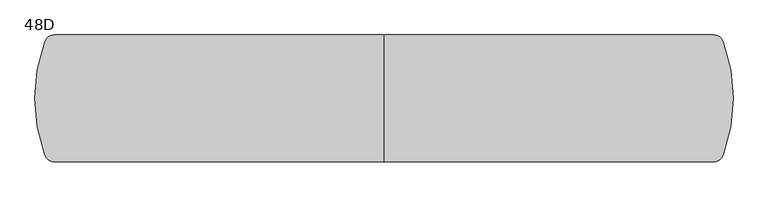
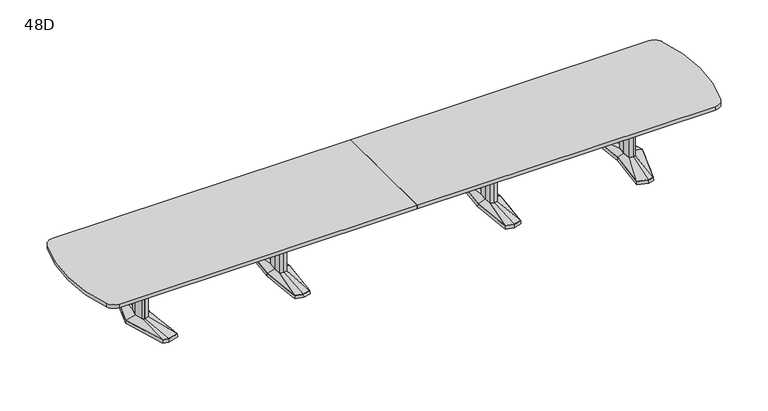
"""IFC4 building model written with IfcOpenShell, lengths in millimetres: furniture geometry, Coalesse_AM_Table_Conference_ETable2_SoftRadiused_22ft_AluminiumBase : 48D."""

from ifc_helpers import new_model, si_unit, point, frame, frame_2d, origin, place, context, project, spatial, polyline, circle_curve, trimmed, segment, composite_curve, outline, extrude, faceted_brep, source, transform, mapped, element, save
from ifc_brep_helpers import plane_surface, spline_surface, advanced_brep


def furniture_48d_76c35294(model_context):
    return source(origin(), model_context, "Body", "SolidModel", [
        faceted_brep([(1036.3666209, -433.8053819, 38.1), (1117.6, -455.556576, 38.1), (1198.8333791, -433.8053819, 38.1), (1236.6564774, 0.0, 38.1), (1198.8333791, 433.8053819, 38.1), (1117.6, 455.556576, 38.1), (1036.3666209, 433.8053819, 38.1), (998.5435226, 0.0, 38.1), (1034.8817205, -435.0512063, 3.175), (996.95, 0.0, 3.175), (1034.8817205, 435.0512063, 3.175), (1117.6, 457.2, 3.175), (1200.3182795, 435.0512063, 3.175), (1238.25, 0.0, 3.175), (1200.3182795, -435.0512063, 3.175), (1117.6, -457.2, 3.175), (1117.6, 429.2617927, 3.175), (1039.6323194, 408.3850278, 3.175), (1042.8980179, 382.9646737, 3.175), (1117.6, 402.9670094, 3.175), (1192.3019821, 382.9646737, 3.175), (1195.5676806, 408.3850278, 3.175), (1117.6, -429.2617927, 3.175), (1195.5676806, -408.3850278, 3.175), (1192.3019821, -382.9646737, 3.175), (1117.6, -402.9670094, 3.175), (1042.8980179, -382.9646737, 3.175), (1039.6323194, -408.3850278, 3.175), (1045.7425738, 114.6326257, 3.175), (1035.0573924, 0.0, 3.175), (1045.7425738, -114.6326257, 3.175), (1117.6, -133.8761372, 3.175), (1189.4574262, -114.6326257, 3.175), (1200.1426076, 0.0, 3.175), (1189.4574262, 114.6326257, 3.175), (1117.6, 133.8761372, 3.175), (1117.6, 429.2617927, 0.0), (1195.5676806, 408.3850278, 0.0), (1192.3019821, 382.9646737, 0.0), (1117.6, 402.9670094, 0.0), (1042.8980179, 382.9646737, 0.0), (1039.6323194, 408.3850278, 0.0), (1117.6, -429.2617927, 0.0), (1039.6323194, -408.3850278, 0.0), (1042.8980179, -382.9646737, 0.0), (1117.6, -402.9670094, 0.0), (1192.3019821, -382.9646737, 0.0), (1195.5676806, -408.3850278, 0.0), (1045.7425738, 114.6326257, 0.0), (1117.6, 133.8761372, 0.0), (1189.4574262, 114.6326257, 0.0), (1200.1426076, 0.0, 0.0), (1189.4574262, -114.6326257, 0.0), (1117.6, -133.8761372, 0.0), (1045.7425738, -114.6326257, 0.0), (1035.0573924, 0.0, 0.0)], [[[0, 1, 2, 3, 4, 5, 6, 7]], [[8, 9, 10, 11, 12, 13, 14, 15], [16, 17, 18, 19, 20, 21], [22, 23, 24, 25, 26, 27], [28, 29, 30, 31, 32, 33, 34, 35]], [[1, 0, 8, 15]], [[2, 1, 15, 14]], [[3, 2, 14, 13]], [[4, 3, 13, 12]], [[5, 4, 12, 11]], [[6, 5, 11, 10]], [[7, 6, 10, 9]], [[0, 7, 9, 8]], [[36, 37, 38, 39, 40, 41]], [[42, 43, 44, 45, 46, 47]], [[48, 49, 50, 51, 52, 53, 54, 55]], [[36, 41, 17, 16]], [[41, 40, 18, 17]], [[40, 39, 19, 18]], [[39, 38, 20, 19]], [[38, 37, 21, 20]], [[37, 36, 16, 21]], [[42, 47, 23, 22]], [[47, 46, 24, 23]], [[46, 45, 25, 24]], [[45, 44, 26, 25]], [[44, 43, 27, 26]], [[43, 42, 22, 27]], [[48, 55, 29, 28]], [[55, 54, 30, 29]], [[54, 53, 31, 30]], [[53, 52, 32, 31]], [[52, 51, 33, 32]], [[51, 50, 34, 33]], [[50, 49, 35, 34]], [[49, 48, 28, 35]]]),
        faceted_brep([(1081.2167166, 84.6900825, 698.5), (1073.3225513, 0.0, 698.5), (1081.2167166, -84.6900825, 698.5), (1117.6, -94.4335728, 698.5), (1153.9832834, -84.6900825, 698.5), (1161.8774487, 0.0, 698.5), (1153.9832834, 84.6900825, 698.5), (1117.6, 94.4335728, 698.5), (1081.2167166, 84.6900825, 63.5), (1117.6, 94.4335728, 63.5), (1153.9832834, 84.6900825, 63.5), (1161.8774487, 0.0, 63.5), (1153.9832834, -84.6900825, 63.5), (1117.6, -94.4335728, 63.5), (1081.2167166, -84.6900825, 63.5), (1073.3225513, 0.0, 63.5)], [[[0, 1, 2, 3, 4, 5, 6, 7]], [[8, 9, 10, 11, 12, 13, 14, 15]], [[1, 0, 8, 15]], [[2, 1, 15, 14]], [[3, 2, 14, 13]], [[4, 3, 13, 12]], [[5, 4, 12, 11]], [[6, 5, 11, 10]], [[7, 6, 10, 9]], [[0, 7, 9, 8]]]),
        advanced_brep(
        [(1081.2167166, 84.6900825, 63.5), (1073.3225513, 0.0, 63.5), (1081.2167166, -84.6900825, 63.5), (1117.6, -94.4335728, 63.5), (1153.9832834, -84.6900825, 63.5), (1161.8774487, 0.0, 63.5), (1153.9832834, 84.6900825, 63.5), (1117.6, 94.4335728, 63.5), (1036.3666209, 433.8053819, 38.1), (1117.6, 455.556576, 38.1), (1198.8333791, 433.8053819, 38.1), (1236.6564774, 0.0, 38.1), (1198.8333791, -433.8053819, 38.1), (1117.6, -455.556576, 38.1), (1036.3666209, -433.8053819, 38.1), (998.5435226, 0.0, 38.1)],
        [
            (0, 1),
            (1, 2),
            (2, 3),
            (3, 4),
            (4, 5),
            (5, 6),
            (6, 7),
            (7, 0),
            (8, 9),
            (9, 10),
            (10, 11),
            (11, 12),
            (12, 13),
            (13, 14),
            (14, 15),
            (15, 8),
            (15, 1),
            (0, 8),
            (14, 2),
            (13, 3),
            (12, 4),
            (11, 5),
            (10, 6),
            (9, 7),
        ],
        [
            plane_surface(frame((1117.6, 0.0, 63.5), z_axis=(0.0, 0.0, 1.0000000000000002), x_axis=(-0.9659615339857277, -0.25868574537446, 0.0))),
            plane_surface(frame((1117.6, 0.0, 38.1), z_axis=(0.0, 0.0, -1.0000000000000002), x_axis=(-0.9659615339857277, -0.25868574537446, 0.0))),
            spline_surface(1, 1, [[(1036.3666209, 433.8053819, 38.1), (1081.2167166, 84.6900825, 63.5)], [(998.5435226, 0.0, 38.1), (1073.3225513, 0.0, 63.5)]], [2, 2], [2, 2], [0.0, 1.0], [0.0, 1.0]),
            spline_surface(1, 1, [[(998.5435226, 0.0, 38.1), (1073.3225513, 0.0, 63.5)], [(1036.3666209, -433.8053819, 38.1), (1081.2167166, -84.6900825, 63.5)]], [2, 2], [2, 2], [0.0, 1.0], [0.0, 1.0]),
            spline_surface(1, 1, [[(1036.3666209, -433.8053819, 38.1), (1081.2167166, -84.6900825, 63.5)], [(1117.6, -455.556576, 38.1), (1117.6, -94.4335728, 63.5)]], [2, 2], [2, 2], [0.0, 1.0], [0.0, 1.0]),
            spline_surface(1, 1, [[(1117.6, -455.556576, 38.1), (1117.6, -94.4335728, 63.5)], [(1198.8333791, -433.8053819, 38.1), (1153.9832834, -84.6900825, 63.5)]], [2, 2], [2, 2], [0.0, 1.0], [0.0, 1.0]),
            spline_surface(1, 1, [[(1198.8333791, -433.8053819, 38.1), (1153.9832834, -84.6900825, 63.5)], [(1236.6564774, 0.0, 38.1), (1161.8774487, 0.0, 63.5)]], [2, 2], [2, 2], [0.0, 1.0], [0.0, 1.0]),
            spline_surface(1, 1, [[(1236.6564774, 0.0, 38.1), (1161.8774487, 0.0, 63.5)], [(1198.8333791, 433.8053819, 38.1), (1153.9832834, 84.6900825, 63.5)]], [2, 2], [2, 2], [0.0, 1.0], [0.0, 1.0]),
            spline_surface(1, 1, [[(1198.8333791, 433.8053819, 38.1), (1153.9832834, 84.6900825, 63.5)], [(1117.6, 455.556576, 38.1), (1117.6, 94.4335728, 63.5)]], [2, 2], [2, 2], [0.0, 1.0], [0.0, 1.0]),
            spline_surface(1, 1, [[(1117.6, 455.556576, 38.1), (1117.6, 94.4335728, 63.5)], [(1036.3666209, 433.8053819, 38.1), (1081.2167166, 84.6900825, 63.5)]], [2, 2], [2, 2], [0.0, 1.0], [0.0, 1.0]),
        ],
        [
            (0, [[1, 2, 3, 4, 5, 6, 7, 8]]),
            (1, [[9, 10, 11, 12, 13, 14, 15, 16]]),
            (2, [[-16, 17, -1, 18]]),
            (3, [[-15, 19, -2, -17]]),
            (4, [[-14, 20, -3, -19]]),
            (5, [[-13, 21, -4, -20]]),
            (6, [[-12, 22, -5, -21]]),
            (7, [[-11, 23, -6, -22]]),
            (8, [[-10, 24, -7, -23]]),
            (9, [[-9, -18, -8, -24]]),
        ],
    ),
        faceted_brep([(-1198.8333791, -433.8053819, 38.1), (-1117.6, -455.556576, 38.1), (-1036.3666209, -433.8053819, 38.1), (-998.5435226, 0.0, 38.1), (-1036.3666209, 433.8053819, 38.1), (-1117.6, 455.556576, 38.1), (-1198.8333791, 433.8053819, 38.1), (-1236.6564774, 0.0, 38.1), (-1200.3182795, -435.0512063, 3.175), (-1238.25, 0.0, 3.175), (-1200.3182795, 435.0512063, 3.175), (-1117.6, 457.2, 3.175), (-1034.8817205, 435.0512063, 3.175), (-996.95, 0.0, 3.175), (-1034.8817205, -435.0512063, 3.175), (-1117.6, -457.2, 3.175), (-1117.6, 429.2617927, 3.175), (-1195.5676806, 408.3850278, 3.175), (-1192.3019821, 382.9646737, 3.175), (-1117.6, 402.9670094, 3.175), (-1042.8980179, 382.9646737, 3.175), (-1039.6323194, 408.3850278, 3.175), (-1117.6, -429.2617927, 3.175), (-1039.6323194, -408.3850278, 3.175), (-1042.8980179, -382.9646737, 3.175), (-1117.6, -402.9670094, 3.175), (-1192.3019821, -382.9646737, 3.175), (-1195.5676806, -408.3850278, 3.175), (-1189.4574262, 114.6326257, 3.175), (-1200.1426076, 0.0, 3.175), (-1189.4574262, -114.6326257, 3.175), (-1117.6, -133.8761372, 3.175), (-1045.7425738, -114.6326257, 3.175), (-1035.0573924, 0.0, 3.175), (-1045.7425738, 114.6326257, 3.175), (-1117.6, 133.8761372, 3.175), (-1117.6, 429.2617927, 0.0), (-1039.6323194, 408.3850278, 0.0), (-1042.8980179, 382.9646737, 0.0), (-1117.6, 402.9670094, 0.0), (-1192.3019821, 382.9646737, 0.0), (-1195.5676806, 408.3850278, 0.0), (-1117.6, -429.2617927, 0.0), (-1195.5676806, -408.3850278, 0.0), (-1192.3019821, -382.9646737, 0.0), (-1117.6, -402.9670094, 0.0), (-1042.8980179, -382.9646737, 0.0), (-1039.6323194, -408.3850278, 0.0), (-1189.4574262, 114.6326257, 0.0), (-1117.6, 133.8761372, 0.0), (-1045.7425738, 114.6326257, 0.0), (-1035.0573924, 0.0, 0.0), (-1045.7425738, -114.6326257, 0.0), (-1117.6, -133.8761372, 0.0), (-1189.4574262, -114.6326257, 0.0), (-1200.1426076, 0.0, 0.0)], [[[0, 1, 2, 3, 4, 5, 6, 7]], [[8, 9, 10, 11, 12, 13, 14, 15], [16, 17, 18, 19, 20, 21], [22, 23, 24, 25, 26, 27], [28, 29, 30, 31, 32, 33, 34, 35]], [[1, 0, 8, 15]], [[2, 1, 15, 14]], [[3, 2, 14, 13]], [[4, 3, 13, 12]], [[5, 4, 12, 11]], [[6, 5, 11, 10]], [[7, 6, 10, 9]], [[0, 7, 9, 8]], [[36, 37, 38, 39, 40, 41]], [[42, 43, 44, 45, 46, 47]], [[48, 49, 50, 51, 52, 53, 54, 55]], [[36, 41, 17, 16]], [[41, 40, 18, 17]], [[40, 39, 19, 18]], [[39, 38, 20, 19]], [[38, 37, 21, 20]], [[37, 36, 16, 21]], [[42, 47, 23, 22]], [[47, 46, 24, 23]], [[46, 45, 25, 24]], [[45, 44, 26, 25]], [[44, 43, 27, 26]], [[43, 42, 22, 27]], [[48, 55, 29, 28]], [[55, 54, 30, 29]], [[54, 53, 31, 30]], [[53, 52, 32, 31]], [[52, 51, 33, 32]], [[51, 50, 34, 33]], [[50, 49, 35, 34]], [[49, 48, 28, 35]]]),
        faceted_brep([(-1153.9832834, 84.6900825, 698.5), (-1161.8774487, 0.0, 698.5), (-1153.9832834, -84.6900825, 698.5), (-1117.6, -94.4335728, 698.5), (-1081.2167166, -84.6900825, 698.5), (-1073.3225513, 0.0, 698.5), (-1081.2167166, 84.6900825, 698.5), (-1117.6, 94.4335728, 698.5), (-1153.9832834, 84.6900825, 63.5), (-1117.6, 94.4335728, 63.5), (-1081.2167166, 84.6900825, 63.5), (-1073.3225513, 0.0, 63.5), (-1081.2167166, -84.6900825, 63.5), (-1117.6, -94.4335728, 63.5), (-1153.9832834, -84.6900825, 63.5), (-1161.8774487, 0.0, 63.5)], [[[0, 1, 2, 3, 4, 5, 6, 7]], [[8, 9, 10, 11, 12, 13, 14, 15]], [[1, 0, 8, 15]], [[2, 1, 15, 14]], [[3, 2, 14, 13]], [[4, 3, 13, 12]], [[5, 4, 12, 11]], [[6, 5, 11, 10]], [[7, 6, 10, 9]], [[0, 7, 9, 8]]]),
        advanced_brep(
        [(-1153.9832834, 84.6900825, 63.5), (-1161.8774487, 0.0, 63.5), (-1153.9832834, -84.6900825, 63.5), (-1117.6, -94.4335728, 63.5), (-1081.2167166, -84.6900825, 63.5), (-1073.3225513, 0.0, 63.5), (-1081.2167166, 84.6900825, 63.5), (-1117.6, 94.4335728, 63.5), (-1198.8333791, 433.8053819, 38.1), (-1117.6, 455.556576, 38.1), (-1036.3666209, 433.8053819, 38.1), (-998.5435226, 0.0, 38.1), (-1036.3666209, -433.8053819, 38.1), (-1117.6, -455.556576, 38.1), (-1198.8333791, -433.8053819, 38.1), (-1236.6564774, 0.0, 38.1)],
        [
            (0, 1),
            (1, 2),
            (2, 3),
            (3, 4),
            (4, 5),
            (5, 6),
            (6, 7),
            (7, 0),
            (8, 9),
            (9, 10),
            (10, 11),
            (11, 12),
            (12, 13),
            (13, 14),
            (14, 15),
            (15, 8),
            (15, 1),
            (0, 8),
            (14, 2),
            (13, 3),
            (12, 4),
            (11, 5),
            (10, 6),
            (9, 7),
        ],
        [
            plane_surface(frame((-1117.6, 0.0, 63.5), z_axis=(0.0, 0.0, 1.0000000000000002), x_axis=(-0.9659615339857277, -0.25868574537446, 0.0))),
            plane_surface(frame((-1117.6, 0.0, 38.1), z_axis=(0.0, 0.0, -1.0000000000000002), x_axis=(-0.9659615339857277, -0.25868574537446, 0.0))),
            spline_surface(1, 1, [[(-1198.8333791, 433.8053819, 38.1), (-1153.9832834, 84.6900825, 63.5)], [(-1236.6564774, 0.0, 38.1), (-1161.8774487, 0.0, 63.5)]], [2, 2], [2, 2], [0.0, 1.0], [0.0, 1.0]),
            spline_surface(1, 1, [[(-1236.6564774, 0.0, 38.1), (-1161.8774487, 0.0, 63.5)], [(-1198.8333791, -433.8053819, 38.1), (-1153.9832834, -84.6900825, 63.5)]], [2, 2], [2, 2], [0.0, 1.0], [0.0, 1.0]),
            spline_surface(1, 1, [[(-1198.8333791, -433.8053819, 38.1), (-1153.9832834, -84.6900825, 63.5)], [(-1117.6, -455.556576, 38.1), (-1117.6, -94.4335728, 63.5)]], [2, 2], [2, 2], [0.0, 1.0], [0.0, 1.0]),
            spline_surface(1, 1, [[(-1117.6, -455.556576, 38.1), (-1117.6, -94.4335728, 63.5)], [(-1036.3666209, -433.8053819, 38.1), (-1081.2167166, -84.6900825, 63.5)]], [2, 2], [2, 2], [0.0, 1.0], [0.0, 1.0]),
            spline_surface(1, 1, [[(-1036.3666209, -433.8053819, 38.1), (-1081.2167166, -84.6900825, 63.5)], [(-998.5435226, 0.0, 38.1), (-1073.3225513, 0.0, 63.5)]], [2, 2], [2, 2], [0.0, 1.0], [0.0, 1.0]),
            spline_surface(1, 1, [[(-998.5435226, 0.0, 38.1), (-1073.3225513, 0.0, 63.5)], [(-1036.3666209, 433.8053819, 38.1), (-1081.2167166, 84.6900825, 63.5)]], [2, 2], [2, 2], [0.0, 1.0], [0.0, 1.0]),
            spline_surface(1, 1, [[(-1036.3666209, 433.8053819, 38.1), (-1081.2167166, 84.6900825, 63.5)], [(-1117.6, 455.556576, 38.1), (-1117.6, 94.4335728, 63.5)]], [2, 2], [2, 2], [0.0, 1.0], [0.0, 1.0]),
            spline_surface(1, 1, [[(-1117.6, 455.556576, 38.1), (-1117.6, 94.4335728, 63.5)], [(-1198.8333791, 433.8053819, 38.1), (-1153.9832834, 84.6900825, 63.5)]], [2, 2], [2, 2], [0.0, 1.0], [0.0, 1.0]),
        ],
        [
            (0, [[1, 2, 3, 4, 5, 6, 7, 8]]),
            (1, [[9, 10, 11, 12, 13, 14, 15, 16]]),
            (2, [[-16, 17, -1, 18]]),
            (3, [[-15, 19, -2, -17]]),
            (4, [[-14, 20, -3, -19]]),
            (5, [[-13, 21, -4, -20]]),
            (6, [[-12, 22, -5, -21]]),
            (7, [[-11, 23, -6, -22]]),
            (8, [[-10, 24, -7, -23]]),
            (9, [[-9, -18, -8, -24]]),
        ],
    ),
        faceted_brep([(2548.0994335, 455.5848221, 38.1), (2438.5218777, 426.2263816, 38.1), (2479.6851217, 0.0, 38.1), (2438.5218777, -426.2263816, 38.1), (2548.0994335, -455.5848221, 38.1), (2604.2257896, -440.5478297, 38.1), (2741.5371769, 0.0, 38.1), (2604.2257896, 440.5478297, 38.1), (2548.0994254, 457.2283104, 3.175), (2605.4811972, 441.8549756, 3.175), (2743.2, 0.0, 3.175), (2605.4811972, -441.8549756, 3.175), (2548.0994254, -457.2283104, 3.175), (2436.8125, -427.4118891, 3.175), (2478.0902356, 0.0, 3.175), (2436.8125, 427.4118891, 3.175), (2551.688865, 428.3273875, 3.175), (2446.6405728, 402.1057253, 3.175), (2454.759268, 377.985069, 3.175), (2555.2782966, 401.0699529, 3.175), (2605.8379225, 387.524361, 3.175), (2605.0318561, 414.0360954, 3.175), (2551.688865, -428.3273875, 3.175), (2605.0318561, -414.0360954, 3.175), (2605.8379225, -387.524361, 3.175), (2555.2782966, -401.0699529, 3.175), (2454.759268, -377.985069, 3.175), (2446.6405728, -402.1057253, 3.175), (2678.2841121, 0.0, 3.175), (2646.0147111, 120.4193755, 3.175), (2597.3674722, 133.471665, 3.175), (2517.4868026, 119.4176561, 3.175), (2506.3555966, 0.0, 3.175), (2517.4868026, -119.4176561, 3.175), (2597.3674722, -133.471665, 3.175), (2646.0147111, -120.4193755, 3.175), (2551.688865, 428.3273875, 0.0), (2605.0318561, 414.0360954, 0.0), (2605.8379225, 387.524361, 0.0), (2555.2782966, 401.0699529, 0.0), (2454.759268, 377.985069, 0.0), (2446.6405728, 402.1057253, 0.0), (2551.688865, -428.3273875, 0.0), (2446.6405728, -402.1057253, 0.0), (2454.759268, -377.985069, 0.0), (2555.2782966, -401.0699529, 0.0), (2605.8379225, -387.524361, 0.0), (2605.0318561, -414.0360954, 0.0), (2678.2841121, 0.0, 0.0), (2646.0147111, -120.4193755, 0.0), (2597.3674722, -133.471665, 0.0), (2517.4868026, -119.4176561, 0.0), (2506.3555966, 0.0, 0.0), (2517.4868026, 119.4176561, 0.0), (2597.3674722, 133.471665, 0.0), (2646.0147111, 120.4193755, 0.0)], [[[0, 1, 2, 3, 4, 5, 6, 7]], [[8, 9, 10, 11, 12, 13, 14, 15], [16, 17, 18, 19, 20, 21], [22, 23, 24, 25, 26, 27], [28, 29, 30, 31, 32, 33, 34, 35]], [[7, 9, 8, 0]], [[6, 10, 9, 7]], [[5, 11, 10, 6]], [[4, 12, 11, 5]], [[3, 13, 12, 4]], [[2, 14, 13, 3]], [[1, 15, 14, 2]], [[0, 8, 15, 1]], [[36, 37, 38, 39, 40, 41]], [[42, 43, 44, 45, 46, 47]], [[48, 49, 50, 51, 52, 53, 54, 55]], [[36, 16, 21, 37]], [[37, 21, 20, 38]], [[38, 20, 19, 39]], [[39, 19, 18, 40]], [[40, 18, 17, 41]], [[41, 17, 16, 36]], [[42, 22, 27, 43]], [[43, 27, 26, 44]], [[44, 26, 25, 45]], [[45, 25, 24, 46]], [[46, 24, 23, 47]], [[47, 23, 22, 42]], [[48, 28, 35, 49]], [[49, 35, 34, 50]], [[50, 34, 33, 51]], [[51, 33, 32, 52]], [[52, 32, 31, 53]], [[53, 31, 30, 54]], [[54, 30, 29, 55]], [[55, 29, 28, 48]]]),
        faceted_brep([(2638.8398336, 0.0, 698.5), (2614.9046046, 89.3188359, 698.5), (2598.0512484, 93.8406728, 698.5), (2595.6514011, 94.4845635, 698.5), (2552.723896, 86.9320037, 698.5), (2544.6207556, 0.0, 698.5), (2552.723896, -86.9320037, 698.5), (2595.6514011, -94.4845635, 698.5), (2598.0512484, -93.8406728, 698.5), (2614.9046046, -89.3188359, 698.5), (2638.8398336, 0.0, 63.5), (2614.9046046, -89.3188359, 63.5), (2598.0512484, -93.8406728, 63.5), (2595.6514011, -94.4845635, 63.5), (2552.723896, -86.9320037, 63.5), (2544.6207556, 0.0, 63.5), (2552.723896, 86.9320037, 63.5), (2595.6514011, 94.4845635, 63.5), (2598.0512484, 93.8406728, 63.5), (2614.9046046, 89.3188359, 63.5)], [[[0, 1, 2, 3, 4, 5, 6, 7, 8, 9]], [[10, 11, 12, 13, 14, 15, 16, 17, 18, 19]], [[9, 11, 10, 0]], [[8, 12, 11, 9]], [[7, 13, 12, 8]], [[6, 14, 13, 7]], [[5, 15, 14, 6]], [[4, 16, 15, 5]], [[3, 17, 16, 4]], [[2, 18, 17, 3]], [[1, 19, 18, 2]], [[0, 10, 19, 1]]]),
        advanced_brep(
        [(2595.6514011, 94.4845635, 63.5), (2552.723896, 86.9320037, 63.5), (2544.6207556, 0.0, 63.5), (2552.723896, -86.9320037, 63.5), (2595.6514011, -94.4845635, 63.5), (2614.9046046, -89.3188359, 63.5), (2638.8398336, 0.0, 63.5), (2614.9046046, 89.3188359, 63.5), (2548.0994335, 455.5848221, 38.1), (2604.2257896, 440.5478297, 38.1), (2741.5371769, 0.0, 38.1), (2604.2257896, -440.5478297, 38.1), (2548.0994335, -455.5848221, 38.1), (2438.5218777, -426.2263816, 38.1), (2479.6851217, 0.0, 38.1), (2438.5218777, 426.2263816, 38.1)],
        [
            (0, 1),
            (1, 2),
            (2, 3),
            (3, 4),
            (4, 5),
            (5, 6),
            (6, 7),
            (7, 0),
            (8, 9),
            (9, 10),
            (10, 11),
            (11, 12),
            (12, 13),
            (13, 14),
            (14, 15),
            (15, 8),
            (8, 0),
            (7, 9),
            (6, 10),
            (5, 11),
            (4, 12),
            (3, 13),
            (2, 14),
            (1, 15),
        ],
        [
            plane_surface(frame((2588.7525491, 0.0, 63.5), z_axis=(0.0, 0.0, 1.0), x_axis=(-0.25884244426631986, -0.9659195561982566, 0.0))),
            plane_surface(frame((2550.3645625, 0.0, 38.1), z_axis=(0.0, 0.0, -1.0), x_axis=(-0.25884244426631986, -0.9659195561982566, 0.0))),
            spline_surface(1, 1, [[(2548.0994335, 455.5848221, 38.1), (2604.2257896, 440.5478297, 38.1)], [(2595.6514011, 94.4845635, 63.5), (2614.9046046, 89.3188359, 63.5)]], [2, 2], [2, 2], [0.0, 1.0], [0.0, 1.0]),
            spline_surface(1, 1, [[(2604.2257896, 440.5478297, 38.1), (2741.5371769, 0.0, 38.1)], [(2614.9046046, 89.3188359, 63.5), (2638.8398336, 0.0, 63.5)]], [2, 2], [2, 2], [0.0, 1.0], [0.0, 1.0]),
            spline_surface(1, 1, [[(2741.5371769, 0.0, 38.1), (2604.2257896, -440.5478297, 38.1)], [(2638.8398336, 0.0, 63.5), (2614.9046046, -89.3188359, 63.5)]], [2, 2], [2, 2], [0.0, 1.0], [0.0, 1.0]),
            spline_surface(1, 1, [[(2604.2257896, -440.5478297, 38.1), (2548.0994335, -455.5848221, 38.1)], [(2614.9046046, -89.3188359, 63.5), (2595.6514011, -94.4845635, 63.5)]], [2, 2], [2, 2], [0.0, 1.0], [0.0, 1.0]),
            spline_surface(1, 1, [[(2548.0994335, -455.5848221, 38.1), (2438.5218777, -426.2263816, 38.1)], [(2595.6514011, -94.4845635, 63.5), (2552.723896, -86.9320037, 63.5)]], [2, 2], [2, 2], [0.0, 1.0], [0.0, 1.0]),
            spline_surface(1, 1, [[(2438.5218777, -426.2263816, 38.1), (2479.6851217, 0.0, 38.1)], [(2552.723896, -86.9320037, 63.5), (2544.6207556, 0.0, 63.5)]], [2, 2], [2, 2], [0.0, 1.0], [0.0, 1.0]),
            spline_surface(1, 1, [[(2479.6851217, 0.0, 38.1), (2438.5218777, 426.2263816, 38.1)], [(2544.6207556, 0.0, 63.5), (2552.723896, 86.9320037, 63.5)]], [2, 2], [2, 2], [0.0, 1.0], [0.0, 1.0]),
            spline_surface(1, 1, [[(2438.5218777, 426.2263816, 38.1), (2548.0994335, 455.5848221, 38.1)], [(2552.723896, 86.9320037, 63.5), (2595.6514011, 94.4845635, 63.5)]], [2, 2], [2, 2], [0.0, 1.0], [0.0, 1.0]),
        ],
        [
            (0, [[1, 2, 3, 4, 5, 6, 7, 8]]),
            (1, [[9, 10, 11, 12, 13, 14, 15, 16]]),
            (2, [[17, -8, 18, -9]]),
            (3, [[-18, -7, 19, -10]]),
            (4, [[-19, -6, 20, -11]]),
            (5, [[-20, -5, 21, -12]]),
            (6, [[-21, -4, 22, -13]]),
            (7, [[-22, -3, 23, -14]]),
            (8, [[-23, -2, 24, -15]]),
            (9, [[-24, -1, -17, -16]]),
        ],
    ),
        faceted_brep([(-2548.0994335, 455.5848221, 38.1), (-2604.2257896, 440.5478297, 38.1), (-2741.5371769, 0.0, 38.1), (-2604.2257896, -440.5478297, 38.1), (-2548.0994335, -455.5848221, 38.1), (-2438.5218777, -426.2263816, 38.1), (-2479.6851217, 0.0, 38.1), (-2438.5218777, 426.2263816, 38.1), (-2548.0994254, 457.2283104, 3.175), (-2436.8125, 427.4118891, 3.175), (-2478.0902356, 0.0, 3.175), (-2436.8125, -427.4118891, 3.175), (-2548.0994254, -457.2283104, 3.175), (-2605.4811972, -441.8549756, 3.175), (-2743.2, 0.0, 3.175), (-2605.4811972, 441.8549756, 3.175), (-2551.688865, 428.3273875, 3.175), (-2605.0318561, 414.0360954, 3.175), (-2605.8379225, 387.524361, 3.175), (-2555.2782966, 401.0699529, 3.175), (-2454.759268, 377.985069, 3.175), (-2446.6405728, 402.1057253, 3.175), (-2551.688865, -428.3273875, 3.175), (-2446.6405728, -402.1057253, 3.175), (-2454.759268, -377.985069, 3.175), (-2555.2782966, -401.0699529, 3.175), (-2605.8379225, -387.524361, 3.175), (-2605.0318561, -414.0360954, 3.175), (-2678.2841121, 0.0, 3.175), (-2646.0147111, -120.4193755, 3.175), (-2597.3674722, -133.471665, 3.175), (-2517.4868026, -119.4176561, 3.175), (-2506.3555966, 0.0, 3.175), (-2517.4868026, 119.4176561, 3.175), (-2597.3674722, 133.471665, 3.175), (-2646.0147111, 120.4193755, 3.175), (-2551.688865, 428.3273875, 0.0), (-2446.6405728, 402.1057253, 0.0), (-2454.759268, 377.985069, 0.0), (-2555.2782966, 401.0699529, 0.0), (-2605.8379225, 387.524361, 0.0), (-2605.0318561, 414.0360954, 0.0), (-2551.688865, -428.3273875, 0.0), (-2605.0318561, -414.0360954, 0.0), (-2605.8379225, -387.524361, 0.0), (-2555.2782966, -401.0699529, 0.0), (-2454.759268, -377.985069, 0.0), (-2446.6405728, -402.1057253, 0.0), (-2678.2841121, 0.0, 0.0), (-2646.0147111, 120.4193755, 0.0), (-2597.3674722, 133.471665, 0.0), (-2517.4868026, 119.4176561, 0.0), (-2506.3555966, 0.0, 0.0), (-2517.4868026, -119.4176561, 0.0), (-2597.3674722, -133.471665, 0.0), (-2646.0147111, -120.4193755, 0.0)], [[[0, 1, 2, 3, 4, 5, 6, 7]], [[8, 9, 10, 11, 12, 13, 14, 15], [16, 17, 18, 19, 20, 21], [22, 23, 24, 25, 26, 27], [28, 29, 30, 31, 32, 33, 34, 35]], [[1, 0, 8, 15]], [[2, 1, 15, 14]], [[3, 2, 14, 13]], [[4, 3, 13, 12]], [[5, 4, 12, 11]], [[6, 5, 11, 10]], [[7, 6, 10, 9]], [[0, 7, 9, 8]], [[36, 37, 38, 39, 40, 41]], [[42, 43, 44, 45, 46, 47]], [[48, 49, 50, 51, 52, 53, 54, 55]], [[36, 41, 17, 16]], [[41, 40, 18, 17]], [[40, 39, 19, 18]], [[39, 38, 20, 19]], [[38, 37, 21, 20]], [[37, 36, 16, 21]], [[42, 47, 23, 22]], [[47, 46, 24, 23]], [[46, 45, 25, 24]], [[45, 44, 26, 25]], [[44, 43, 27, 26]], [[43, 42, 22, 27]], [[48, 55, 29, 28]], [[55, 54, 30, 29]], [[54, 53, 31, 30]], [[53, 52, 32, 31]], [[52, 51, 33, 32]], [[51, 50, 34, 33]], [[50, 49, 35, 34]], [[49, 48, 28, 35]]]),
        faceted_brep([(-2638.8398336, 0.0, 698.5), (-2614.9046046, -89.3188359, 698.5), (-2598.0512484, -93.8406728, 698.5), (-2595.6514011, -94.4845635, 698.5), (-2552.723896, -86.9320037, 698.5), (-2544.6207556, 0.0, 698.5), (-2552.723896, 86.9320037, 698.5), (-2595.6514011, 94.4845635, 698.5), (-2598.0512484, 93.8406728, 698.5), (-2614.9046046, 89.3188359, 698.5), (-2638.8398336, 0.0, 63.5), (-2614.9046046, 89.3188359, 63.5), (-2598.0512484, 93.8406728, 63.5), (-2595.6514011, 94.4845635, 63.5), (-2552.723896, 86.9320037, 63.5), (-2544.6207556, 0.0, 63.5), (-2552.723896, -86.9320037, 63.5), (-2595.6514011, -94.4845635, 63.5), (-2598.0512484, -93.8406728, 63.5), (-2614.9046046, -89.3188359, 63.5)], [[[0, 1, 2, 3, 4, 5, 6, 7, 8, 9]], [[10, 11, 12, 13, 14, 15, 16, 17, 18, 19]], [[1, 0, 10, 19]], [[2, 1, 19, 18]], [[3, 2, 18, 17]], [[4, 3, 17, 16]], [[5, 4, 16, 15]], [[6, 5, 15, 14]], [[7, 6, 14, 13]], [[8, 7, 13, 12]], [[9, 8, 12, 11]], [[0, 9, 11, 10]]]),
        advanced_brep(
        [(-2595.6514011, 94.4845635, 63.5), (-2614.9046046, 89.3188359, 63.5), (-2638.8398336, 0.0, 63.5), (-2614.9046046, -89.3188359, 63.5), (-2595.6514011, -94.4845635, 63.5), (-2552.723896, -86.9320037, 63.5), (-2544.6207556, 0.0, 63.5), (-2552.723896, 86.9320037, 63.5), (-2548.0994335, 455.5848221, 38.1), (-2438.5218777, 426.2263816, 38.1), (-2479.6851217, 0.0, 38.1), (-2438.5218777, -426.2263816, 38.1), (-2548.0994335, -455.5848221, 38.1), (-2604.2257896, -440.5478297, 38.1), (-2741.5371769, 0.0, 38.1), (-2604.2257896, 440.5478297, 38.1)],
        [
            (0, 1),
            (1, 2),
            (2, 3),
            (3, 4),
            (4, 5),
            (5, 6),
            (6, 7),
            (7, 0),
            (8, 9),
            (9, 10),
            (10, 11),
            (11, 12),
            (12, 13),
            (13, 14),
            (14, 15),
            (15, 8),
            (15, 1),
            (0, 8),
            (14, 2),
            (13, 3),
            (12, 4),
            (11, 5),
            (10, 6),
            (9, 7),
        ],
        [
            plane_surface(frame((-2588.7525491, 0.0, 63.5), z_axis=(0.0, 0.0, 1.0), x_axis=(0.25884244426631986, -0.9659195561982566, 0.0))),
            plane_surface(frame((-2550.3645625, 0.0, 38.1), z_axis=(0.0, 0.0, -1.0), x_axis=(0.25884244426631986, -0.9659195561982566, 0.0))),
            spline_surface(1, 1, [[(-2548.0994335, 455.5848221, 38.1), (-2595.6514011, 94.4845635, 63.5)], [(-2604.2257896, 440.5478297, 38.1), (-2614.9046046, 89.3188359, 63.5)]], [2, 2], [2, 2], [0.0, 1.0], [0.0, 1.0]),
            spline_surface(1, 1, [[(-2604.2257896, 440.5478297, 38.1), (-2614.9046046, 89.3188359, 63.5)], [(-2741.5371769, 0.0, 38.1), (-2638.8398336, 0.0, 63.5)]], [2, 2], [2, 2], [0.0, 1.0], [0.0, 1.0]),
            spline_surface(1, 1, [[(-2741.5371769, 0.0, 38.1), (-2638.8398336, 0.0, 63.5)], [(-2604.2257896, -440.5478297, 38.1), (-2614.9046046, -89.3188359, 63.5)]], [2, 2], [2, 2], [0.0, 1.0], [0.0, 1.0]),
            spline_surface(1, 1, [[(-2604.2257896, -440.5478297, 38.1), (-2614.9046046, -89.3188359, 63.5)], [(-2548.0994335, -455.5848221, 38.1), (-2595.6514011, -94.4845635, 63.5)]], [2, 2], [2, 2], [0.0, 1.0], [0.0, 1.0]),
            spline_surface(1, 1, [[(-2548.0994335, -455.5848221, 38.1), (-2595.6514011, -94.4845635, 63.5)], [(-2438.5218777, -426.2263816, 38.1), (-2552.723896, -86.9320037, 63.5)]], [2, 2], [2, 2], [0.0, 1.0], [0.0, 1.0]),
            spline_surface(1, 1, [[(-2438.5218777, -426.2263816, 38.1), (-2552.723896, -86.9320037, 63.5)], [(-2479.6851217, 0.0, 38.1), (-2544.6207556, 0.0, 63.5)]], [2, 2], [2, 2], [0.0, 1.0], [0.0, 1.0]),
            spline_surface(1, 1, [[(-2479.6851217, 0.0, 38.1), (-2544.6207556, 0.0, 63.5)], [(-2438.5218777, 426.2263816, 38.1), (-2552.723896, 86.9320037, 63.5)]], [2, 2], [2, 2], [0.0, 1.0], [0.0, 1.0]),
            spline_surface(1, 1, [[(-2438.5218777, 426.2263816, 38.1), (-2552.723896, 86.9320037, 63.5)], [(-2548.0994335, 455.5848221, 38.1), (-2595.6514011, 94.4845635, 63.5)]], [2, 2], [2, 2], [0.0, 1.0], [0.0, 1.0]),
        ],
        [
            (0, [[1, 2, 3, 4, 5, 6, 7, 8]]),
            (1, [[9, 10, 11, 12, 13, 14, 15, 16]]),
            (2, [[-16, 17, -1, 18]]),
            (3, [[-15, 19, -2, -17]]),
            (4, [[-14, 20, -3, -19]]),
            (5, [[-13, 21, -4, -20]]),
            (6, [[-12, 22, -5, -21]]),
            (7, [[-11, 23, -6, -22]]),
            (8, [[-10, 24, -7, -23]]),
            (9, [[-9, -18, -8, -24]]),
        ],
    ),
        extrude(outline(polyline([(96.8375, 698.5), (103.1875, 698.5), (103.1875, 476.25), (-103.1875, 476.25), (-103.1875, 698.5), (-96.8375, 698.5), (-96.8375, 482.6), (96.8375, 482.6), (96.8375, 698.5)])), frame((-2544.7625, 0.0, 0.0), z_axis=(1.0, 0.0, 0.0), x_axis=(0.0, 1.0, 0.0)), (0.0, 0.0, 1.0), 1382.8850513),
        extrude(outline(polyline([(96.8375, 698.5), (103.1875, 698.5), (103.1875, 476.25), (-103.1875, 476.25), (-103.1875, 698.5), (-96.8375, 698.5), (-96.8375, 482.6), (96.8375, 482.6), (96.8375, 698.5)])), frame((-1073.3225513, 0.0, 0.0), z_axis=(1.0, 0.0, 0.0), x_axis=(0.0, 1.0, 0.0)), (0.0, 0.0, 1.0), 2146.6451026),
        extrude(outline(composite_curve([segment(polyline([(0.0, 33.8098423), (0.0, 609.6), (3163.6557965, 609.6)]), True, "CONTINUOUS"), segment(trimmed(circle_curve(frame_2d((3163.6557965, 508.0)), 101.6), [point((3163.6557965, 609.6))], [point((3259.4453259, 541.8662966))], False, "CARTESIAN"), True, "CONTINUOUS"), segment(polyline([(3259.4453259, 541.8662966), (3260.1956256, 539.7441026)]), True, "CONTINUOUS"), segment(trimmed(circle_curve(frame_2d((1733.55, 0.0)), 1619.25), [point((3260.1956256, 539.7441026))], [point((3260.1956256, -539.7441026))], False, "CARTESIAN"), True, "CONTINUOUS"), segment(polyline([(3260.1956256, -539.7441026), (3259.4453259, -541.8662966)]), True, "CONTINUOUS"), segment(trimmed(circle_curve(frame_2d((3163.6557965, -508.0)), 101.6), [point((3259.4453259, -541.8662966))], [point((3163.6557965, -609.6))], False, "CARTESIAN"), True, "CONTINUOUS"), segment(polyline([(3163.6557965, -609.6), (0.0, -609.6), (0.0, 33.8098423)]), True, "CONTINUOUS")], self_intersect=False)), frame((0.0, 0.0, 698.5), z_axis=(0.0, 0.0, 1.0), x_axis=(1.0, 0.0, 0.0)), (0.0, 0.0, 1.0), 38.1),
        extrude(outline(composite_curve([segment(polyline([(0.0, 116.8151966), (0.0, -609.6), (-3163.6557965, -609.6)]), True, "CONTINUOUS"), segment(trimmed(circle_curve(frame_2d((-3163.6557965, -508.0)), 101.6), [point((-3163.6557965, -609.6))], [point((-3259.4453259, -541.8662966))], False, "CARTESIAN"), True, "CONTINUOUS"), segment(polyline([(-3259.4453259, -541.8662966), (-3260.1956256, -539.7441026)]), True, "CONTINUOUS"), segment(trimmed(circle_curve(frame_2d((-1733.55, 0.0)), 1619.25), [point((-3260.1956256, -539.7441026))], [point((-3260.1956256, 539.7441026))], False, "CARTESIAN"), True, "CONTINUOUS"), segment(polyline([(-3260.1956256, 539.7441026), (-3259.4453259, 541.8662966)]), True, "CONTINUOUS"), segment(trimmed(circle_curve(frame_2d((-3163.6557965, 508.0)), 101.6), [point((-3259.4453259, 541.8662966))], [point((-3163.6557965, 609.6))], False, "CARTESIAN"), True, "CONTINUOUS"), segment(polyline([(-3163.6557965, 609.6), (0.0, 609.6), (0.0, 116.8151966)]), True, "CONTINUOUS")], self_intersect=False)), frame((0.0, 0.0, 698.5), z_axis=(0.0, 0.0, 1.0), x_axis=(1.0, 0.0, 0.0)), (0.0, 0.0, 1.0), 38.1),
        extrude(outline(polyline([(96.8375, 698.5), (103.1875, 698.5), (103.1875, 476.25), (-103.1875, 476.25), (-103.1875, 698.5), (-96.8375, 698.5), (-96.8375, 482.6), (96.8375, 482.6), (96.8375, 698.5)])), frame((1161.8774487, 0.0, 0.0), z_axis=(1.0, 0.0, 0.0), x_axis=(0.0, 1.0, 0.0)), (0.0, 0.0, 1.0), 1382.8850513),
    ])


if __name__ == "__main__":
    model = new_model("IFC4")
    model_context = context("Model", 3, world=origin())
    ifc_project = project(units=[si_unit("LENGTHUNIT", "METRE", prefix="MILLI")], contexts=[model_context])
    site = spatial("IfcSite", under=ifc_project)
    building = spatial("IfcBuilding", under=site)
    placement = place(None, origin())
    furniture_48d_shape = furniture_48d_76c35294(model_context)
    element("IfcFurniture", 1, ObjectType="Coalesse_AM_Table_Conference_ETable2_SoftRadiused_22ft_AluminiumBase : 48D", at=placement, inside=building, context=model_context, shape_type="MappedRepresentation", body=[
        mapped(furniture_48d_shape, transform((0.0, 0.0, 0.0), x_axis=(1.0, 0.0, 0.0), y_axis=(0.0, 1.0, 0.0), z_axis=(0.0, 0.0, 1.0))),
    ])
    save(model, "model.ifc")
